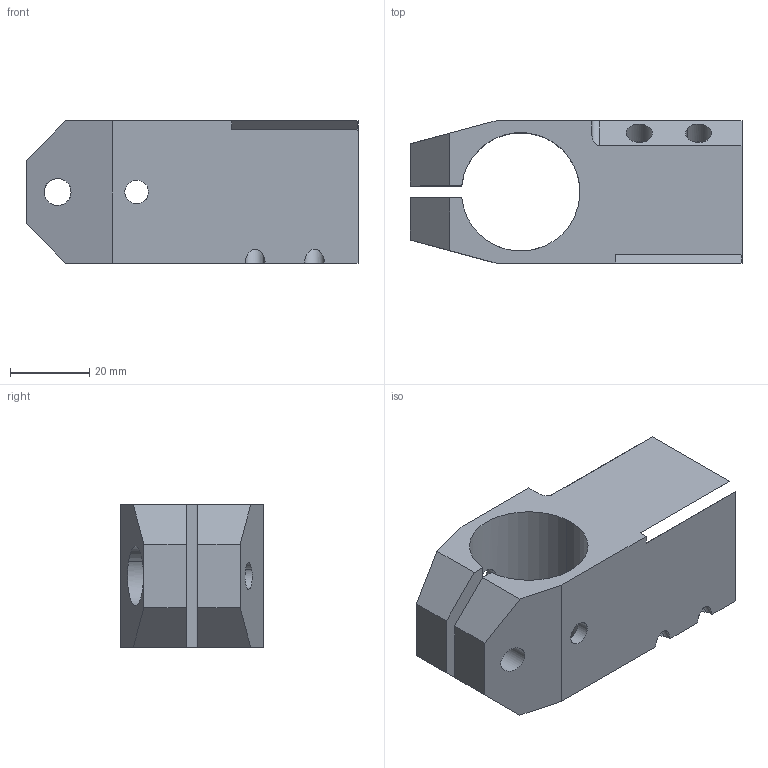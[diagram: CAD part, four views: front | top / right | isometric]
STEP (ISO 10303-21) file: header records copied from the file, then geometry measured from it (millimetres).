
FILE_DESCRIPTION(('CATIA V5 STEP Exchange'),'2;1');
FILE_NAME('\\192.168.2.253\vorns\技术部\03-技术资料\03-产品数模\02、抓具\STP\EGT143.stp','2017-09-14T11:40:18+00:00',('none'),('none'),'CATIA Version 5 Release 21 GA (IN-10)','CATIA V5 STEP AP203','none');
FILE_SCHEMA(('CONFIG_CONTROL_DESIGN'));
Length unit declared in the file: millimetre
Products named in the file (1): CS-38D 021721_________00_713_EGT143_T-VERBINDER_30X30X90
Bounding box: 84 x 36 x 36 mm (x, y, z)
Volume: 45888.6 mm3; surface area: 20597.6 mm2
Topology: 1 solids, 1 shells, 51 faces, 150 edges, 100 vertices
Faces by surface type: plane 26, cylinder 25
Entity records: 2148 total; most frequent: CARTESIAN_POINT 806, ORIENTED_EDGE 300, DIRECTION 203, EDGE_CURVE 150, VERTEX_POINT 100, VECTOR 92, LINE 92, AXIS2_PLACEMENT_3D 68
